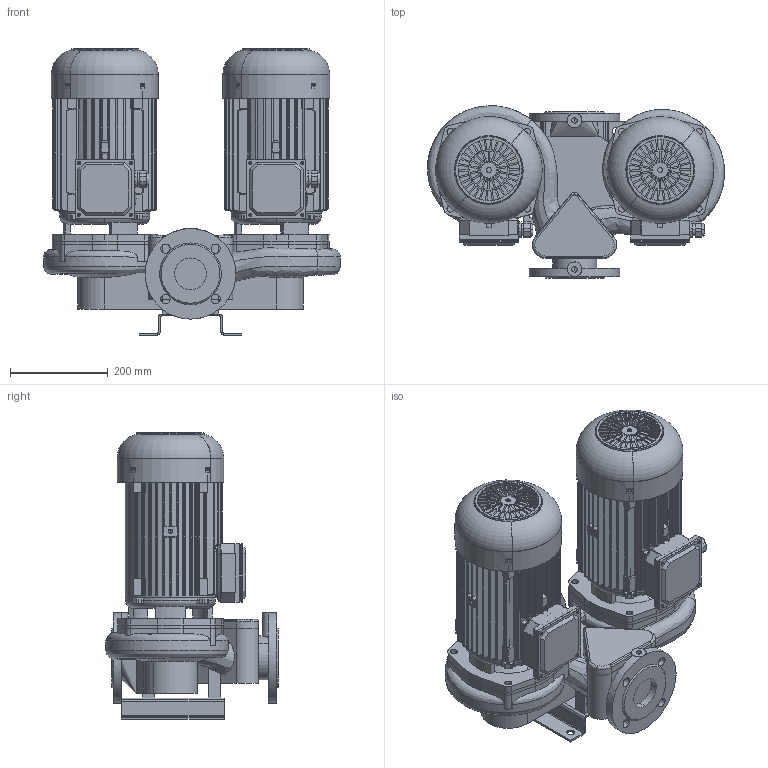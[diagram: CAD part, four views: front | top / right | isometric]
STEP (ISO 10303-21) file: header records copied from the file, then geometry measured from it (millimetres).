
FILE_DESCRIPTION(('STEP AP214'),'1');
FILE_NAME('export.stp','2018-05-30T07:50:15',(' '),(' '),'Spatial InterOp 3D',' ',' ');
FILE_SCHEMA(('AUTOMOTIVE_DESIGN { 1 0 10303 214 1 1 1 1 }'));
Length unit declared in the file: millimetre
Products named in the file (17): W_T65B2400_KP112; V_TLL65AB80A1102; V_PPT65AB; V_JALKA35973; 440017; 440016; V_MKP112F19; 440015___; 440018; 440021; 480022; 480020; 480023; M25_Blind_Plug; M25_tiivisteholkk
Assembly tree (26 placements, depth 4):
  W_T65B2400_KP112
    V_TLL65AB80A1102  x2
    V_PPT65AB
    V_JALKA35973
    V_MKP112F19
      440017
        440016
      440015___
      440018
      440021
      480022
      480020
      480023
      M25_Blind_Plug
      M25_tiivisteholkk
    V_MKP112F19
      440017
        440016
      440015___
      440018
      440021
      480022
      480020
      480023
      M25_Blind_Plug
      M25_tiivisteholkk
Bounding box: 606.19 x 351.89 x 584.2 mm (x, y, z)
Volume: 20875441.6 mm3; surface area: 5015927.3 mm2
Topology: 22 solids, 22 shells, 3251 faces, 9118 edges, 5993 vertices
Faces by surface type: cylinder 1611, plane 1148, cone 240, torus 192, bspline 60
Entity records: 71157 total; most frequent: CARTESIAN_POINT 20913, ORIENTED_EDGE 9832, DIRECTION 9427, EDGE_CURVE 4916, AXIS2_PLACEMENT_3D 3569, VERTEX_POINT 3237, LINE 2289, VECTOR 2289
